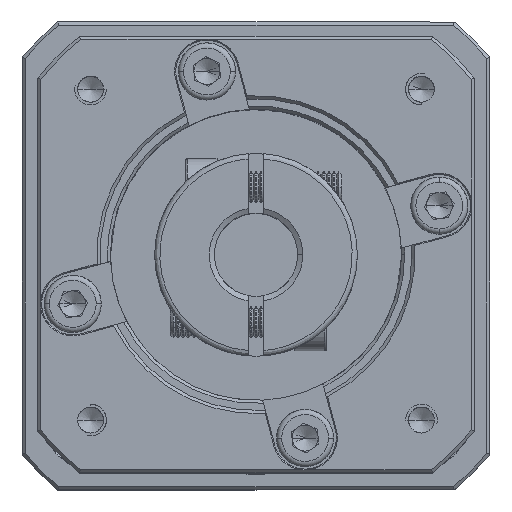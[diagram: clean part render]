
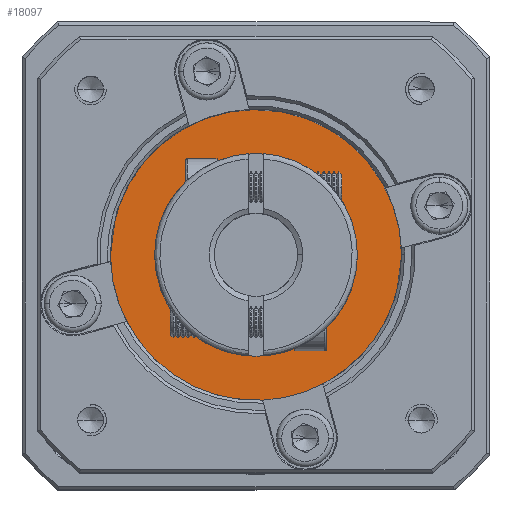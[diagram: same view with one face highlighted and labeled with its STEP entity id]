
A CAD part, top view. The second image highlights one B-rep face of the part: STEP entity #18097.
In plain terms, the highlighted planar face has unit normal (0, 0, 1).
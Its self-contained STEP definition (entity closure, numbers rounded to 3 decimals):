
#1509 = FACE_OUTER_BOUND ( 'NONE', #109421, .T. ) ;
#5388 = CARTESIAN_POINT ( 'NONE',  ( -63.158, 6.61, 38.62 ) ) ;
#5854 = CARTESIAN_POINT ( 'NONE',  ( -83.958, 6.61, 38.62 ) ) ;
#7341 = AXIS2_PLACEMENT_3D ( 'NONE', #131562, #131121, #122064 ) ;
#18097 = ADVANCED_FACE ( 'NONE', ( #1509 ), #120725, .T. ) ;
#28772 = ORIENTED_EDGE ( 'NONE', *, *, #131218, .F. ) ;
#64177 = AXIS2_PLACEMENT_3D ( 'NONE', #87809, #77952, #76623 ) ;
#76623 = DIRECTION ( 'NONE',  ( -1., 0., 0. ) ) ;
#77151 = DIRECTION ( 'NONE',  ( -1., 0., 0. ) ) ;
#77952 = DIRECTION ( 'NONE',  ( 0., 0., -1. ) ) ;
#85798 = EDGE_CURVE ( 'NONE', #91917, #111514, #103930, .T. ) ;
#87809 = CARTESIAN_POINT ( 'NONE',  ( -63.158, 6.61, 38.62 ) ) ;
#91083 = AXIS2_PLACEMENT_3D ( 'NONE', #5388, #108092, #77151 ) ;
#91917 = VERTEX_POINT ( 'NONE', #99134 ) ;
#99134 = CARTESIAN_POINT ( 'NONE',  ( -42.358, 6.61, 38.62 ) ) ;
#103930 = CIRCLE ( 'NONE', #64177, 20.8 ) ;
#106921 = CIRCLE ( 'NONE', #91083, 20.8 ) ;
#108092 = DIRECTION ( 'NONE',  ( 0., 0., -1. ) ) ;
#109421 = EDGE_LOOP ( 'NONE', ( #28772, #112864 ) ) ;
#111514 = VERTEX_POINT ( 'NONE', #5854 ) ;
#112864 = ORIENTED_EDGE ( 'NONE', *, *, #85798, .F. ) ;
#120725 = PLANE ( 'NONE',  #7341 ) ;
#122064 = DIRECTION ( 'NONE',  ( 1., 0., 0. ) ) ;
#131121 = DIRECTION ( 'NONE',  ( 0., 0., 1. ) ) ;
#131218 = EDGE_CURVE ( 'NONE', #111514, #91917, #106921, .T. ) ;
#131562 = CARTESIAN_POINT ( 'NONE',  ( -63.158, 6.61, 38.62 ) ) ;
